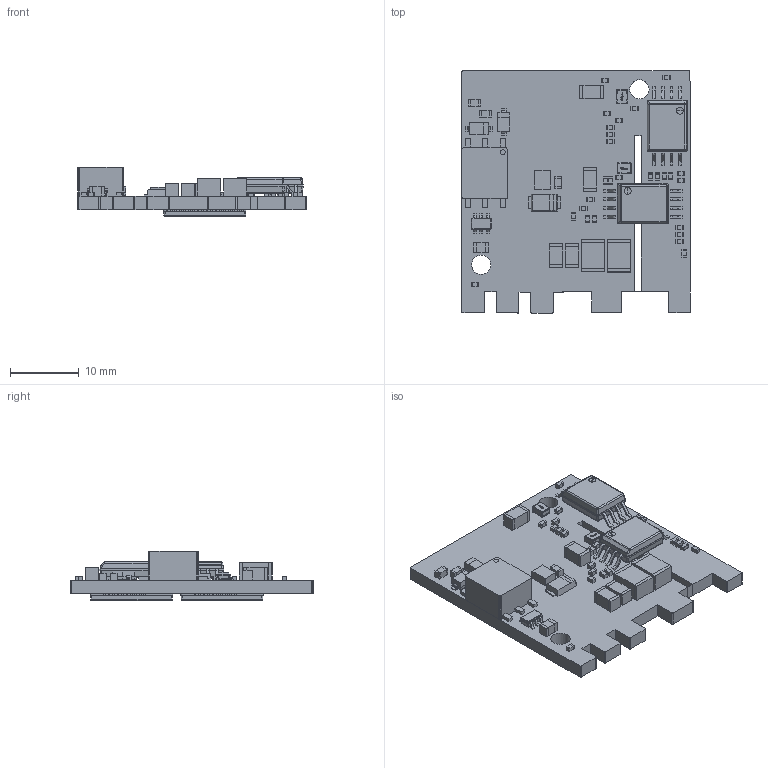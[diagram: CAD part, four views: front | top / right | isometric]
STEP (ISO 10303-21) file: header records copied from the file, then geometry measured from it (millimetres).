
FILE_DESCRIPTION(('Open CASCADE Model'),'2;1');
FILE_NAME('Open CASCADE Shape Model','2022-01-17T22:33:38',('Author'),( 'Open CASCADE'),'Open CASCADE STEP processor 6.8','Open CASCADE 6.8' ,'Unknown');
FILE_SCHEMA(('AUTOMOTIVE_DESIGN { 1 0 10303 214 1 1 1 1 }'));
Length unit declared in the file: millimetre
Products named in the file (123): PCB; Board; Open CASCADE STEP translator 6.8 1.1.1; D3; SMAF; SMAF_1; SMAF_2; SMAF_3; SMAF_4; D2; SOD-123; R10; 5981127792; Extruded; 5981127632; C28; U6; IC_XMG3522R030QRQSTQ1_VQFN52; 1; 2; 3; 4; Texas_Logo_Yury; U5; U4; DWV0008A; BODY-SOIC; LEAD-DWV0008A; U3; U1; DBV0006A; DBV0006A_2; DBV0006A_1; T1; 5981127952; 5981127872; 5981118592; 5981118432; 5981118192; R9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
Assembly tree (236 placements, depth 4):
  PCB
    Board
      Open CASCADE STEP translator 6.8 1.1.1
    D3
      SMAF
        SMAF_1
        SMAF_2
        SMAF_3
        SMAF_4
    D2
      SOD-123
    R10
      5981127792  x2
        Extruded
      5981127632
        Extruded
    C28
      5981127792  x2
        Extruded
      5981127632
        Extruded
    U6
      IC_XMG3522R030QRQSTQ1_VQFN52
        1
        2
        3
        4
        Texas_Logo_Yury
    U5
      IC_XMG3522R030QRQSTQ1_VQFN52
        1
        2
        3
        4
        Texas_Logo_Yury
    U4
      DWV0008A
        BODY-SOIC
        LEAD-DWV0008A  x8
    U3
      DWV0008A
        BODY-SOIC
        LEAD-DWV0008A  x8
    U1
      DBV0006A
        DBV0006A_2
        DBV0006A_1  x6
    T1
      5981127952
        Extruded
      5981127872
        Extruded
      5981118592
        Extruded
      5981118432  x2
        Extruded
      5981118192  x3
        Extruded
    R9
      5981126752  x2
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Bounding box: 33.4 x 35.33 x 7.21 mm (x, y, z)
Volume: 3065.4 mm3; surface area: 5696.6 mm2
Topology: 330 solids, 330 shells, 4916 faces, 12264 edges, 8000 vertices
Faces by surface type: plane 3646, cylinder 632, bspline 444, torus 146, sphere 48
Full cylindrical faces by diameter (mm): 2.8 x2
Entity records: 72022 total; most frequent: CARTESIAN_POINT 15254, ORIENTED_EDGE 11096, DIRECTION 10130, EDGE_CURVE 5548, LINE 4442, VECTOR 4442, VERTEX_POINT 3610, AXIS2_PLACEMENT_3D 2844
